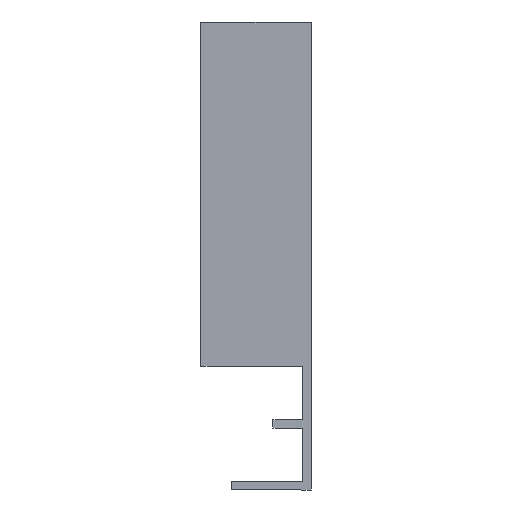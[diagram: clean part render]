
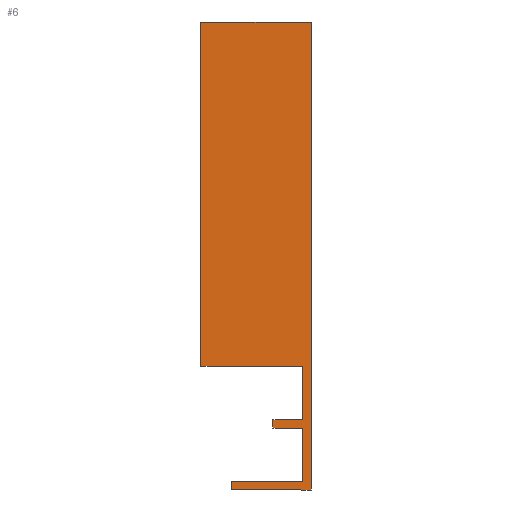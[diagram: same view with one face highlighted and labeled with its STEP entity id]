
A CAD part, left-side view. The second image highlights one B-rep face of the part: STEP entity #6.
In plain terms, the highlighted planar face has unit normal (-1, 0, 0).
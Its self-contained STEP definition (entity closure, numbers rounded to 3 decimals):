
#6 = ADVANCED_FACE ( 'NONE', ( #350 ), #48, .T. ) ;
#21 = VERTEX_POINT ( 'NONE', #185 ) ;
#23 = VERTEX_POINT ( 'NONE', #189 ) ;
#25 = VERTEX_POINT ( 'NONE', #190 ) ;
#27 = VERTEX_POINT ( 'NONE', #192 ) ;
#29 = VERTEX_POINT ( 'NONE', #188 ) ;
#31 = VERTEX_POINT ( 'NONE', #195 ) ;
#33 = VERTEX_POINT ( 'NONE', #197 ) ;
#34 = VERTEX_POINT ( 'NONE', #198 ) ;
#38 = VERTEX_POINT ( 'NONE', #202 ) ;
#40 = VERTEX_POINT ( 'NONE', #204 ) ;
#44 = VERTEX_POINT ( 'NONE', #208 ) ;
#48 = PLANE ( 'NONE',  #97 ) ;
#54 = VERTEX_POINT ( 'NONE', #220 ) ;
#68 = EDGE_CURVE ( 'NONE', #38, #40, #471, .T. ) ;
#70 = EDGE_CURVE ( 'NONE', #40, #34, #469, .T. ) ;
#73 = EDGE_CURVE ( 'NONE', #33, #31, #473, .T. ) ;
#76 = EDGE_CURVE ( 'NONE', #34, #44, #338, .T. ) ;
#77 = EDGE_CURVE ( 'NONE', #31, #29, #352, .T. ) ;
#80 = EDGE_CURVE ( 'NONE', #27, #25, #342, .T. ) ;
#90 = EDGE_CURVE ( 'NONE', #44, #33, #493, .T. ) ;
#91 = EDGE_CURVE ( 'NONE', #23, #21, #501, .T. ) ;
#94 = EDGE_CURVE ( 'NONE', #25, #23, #500, .T. ) ;
#96 = EDGE_CURVE ( 'NONE', #21, #54, #508, .T. ) ;
#97 = AXIS2_PLACEMENT_3D ( 'NONE', #137, #143, #144 ) ;
#127 = EDGE_CURVE ( 'NONE', #29, #27, #533, .T. ) ;
#128 = EDGE_CURVE ( 'NONE', #54, #38, #535, .T. ) ;
#137 = CARTESIAN_POINT ( 'NONE',  ( -388.5, 6., -16.7 ) ) ;
#143 = DIRECTION ( 'NONE',  ( -1., 0., 0. ) ) ;
#144 = DIRECTION ( 'NONE',  ( 0., -1., 0. ) ) ;
#185 = CARTESIAN_POINT ( 'NONE',  ( -388.5, 0., -8.95 ) ) ;
#188 = CARTESIAN_POINT ( 'NONE',  ( -388.5, 10.4, 0. ) ) ;
#189 = CARTESIAN_POINT ( 'NONE',  ( -388.5, 0., -7.75 ) ) ;
#190 = CARTESIAN_POINT ( 'NONE',  ( -388.5, -4.3, -7.75 ) ) ;
#192 = CARTESIAN_POINT ( 'NONE',  ( -388.5, -4.3, 0. ) ) ;
#195 = CARTESIAN_POINT ( 'NONE',  ( -388.5, 10.4, 49.7 ) ) ;
#197 = CARTESIAN_POINT ( 'NONE',  ( -388.5, -5.5, 49.7 ) ) ;
#198 = CARTESIAN_POINT ( 'NONE',  ( -388.5, 6., -17.9 ) ) ;
#202 = CARTESIAN_POINT ( 'NONE',  ( -388.5, -4.3, -16.7 ) ) ;
#204 = CARTESIAN_POINT ( 'NONE',  ( -388.5, 6., -16.7 ) ) ;
#208 = CARTESIAN_POINT ( 'NONE',  ( -388.5, -5.5, -17.9 ) ) ;
#217 = CARTESIAN_POINT ( 'NONE',  ( -388.5, -4.3, -16.7 ) ) ;
#220 = CARTESIAN_POINT ( 'NONE',  ( -388.5, -4.3, -8.95 ) ) ;
#221 = CARTESIAN_POINT ( 'NONE',  ( -388.5, 6., -16.7 ) ) ;
#222 = DIRECTION ( 'NONE',  ( 0., 1., 0. ) ) ;
#227 = DIRECTION ( 'NONE',  ( 0., 0., -1. ) ) ;
#230 = CARTESIAN_POINT ( 'NONE',  ( -388.5, -5.5, 49.7 ) ) ;
#232 = DIRECTION ( 'NONE',  ( 0., 1., 0. ) ) ;
#239 = CARTESIAN_POINT ( 'NONE',  ( -388.5, 6., -17.9 ) ) ;
#240 = DIRECTION ( 'NONE',  ( 0., -1., 0. ) ) ;
#241 = CARTESIAN_POINT ( 'NONE',  ( -388.5, 10.4, 49.7 ) ) ;
#242 = DIRECTION ( 'NONE',  ( 0., 0., -1. ) ) ;
#245 = CARTESIAN_POINT ( 'NONE',  ( -388.5, -4.3, 0. ) ) ;
#248 = DIRECTION ( 'NONE',  ( 0., 0., -1. ) ) ;
#265 = CARTESIAN_POINT ( 'NONE',  ( -388.5, -5.5, -17.9 ) ) ;
#267 = DIRECTION ( 'NONE',  ( 0., 0., 1. ) ) ;
#268 = CARTESIAN_POINT ( 'NONE',  ( -388.5, 0., -7.75 ) ) ;
#269 = DIRECTION ( 'NONE',  ( 0., 0., -1. ) ) ;
#277 = CARTESIAN_POINT ( 'NONE',  ( -388.5, -4.3, -7.75 ) ) ;
#278 = DIRECTION ( 'NONE',  ( 0., 1., 0. ) ) ;
#279 = CARTESIAN_POINT ( 'NONE',  ( -388.5, 0., -8.95 ) ) ;
#280 = DIRECTION ( 'NONE',  ( 0., -1., 0. ) ) ;
#305 = CARTESIAN_POINT ( 'NONE',  ( -388.5, 10.4, 0. ) ) ;
#306 = DIRECTION ( 'NONE',  ( 0., -1., 0. ) ) ;
#307 = CARTESIAN_POINT ( 'NONE',  ( -388.5, -4.3, -8.95 ) ) ;
#308 = DIRECTION ( 'NONE',  ( 0., 0., -1. ) ) ;
#338 = LINE ( 'NONE', #239, #463 ) ;
#342 = LINE ( 'NONE', #245, #480 ) ;
#344 = VECTOR ( 'NONE', #242, 1000. ) ;
#350 = FACE_OUTER_BOUND ( 'NONE', #436, .T. ) ;
#352 = LINE ( 'NONE', #241, #344 ) ;
#365 = ORIENTED_EDGE ( 'NONE', *, *, #68, .T. ) ;
#366 = ORIENTED_EDGE ( 'NONE', *, *, #70, .T. ) ;
#367 = ORIENTED_EDGE ( 'NONE', *, *, #76, .T. ) ;
#381 = ORIENTED_EDGE ( 'NONE', *, *, #90, .T. ) ;
#402 = ORIENTED_EDGE ( 'NONE', *, *, #73, .T. ) ;
#436 = EDGE_LOOP ( 'NONE', ( #365, #366, #367, #381, #402, #438, #439, #440, #441, #442, #443, #444 ) ) ;
#438 = ORIENTED_EDGE ( 'NONE', *, *, #77, .T. ) ;
#439 = ORIENTED_EDGE ( 'NONE', *, *, #127, .T. ) ;
#440 = ORIENTED_EDGE ( 'NONE', *, *, #80, .T. ) ;
#441 = ORIENTED_EDGE ( 'NONE', *, *, #94, .T. ) ;
#442 = ORIENTED_EDGE ( 'NONE', *, *, #91, .T. ) ;
#443 = ORIENTED_EDGE ( 'NONE', *, *, #96, .T. ) ;
#444 = ORIENTED_EDGE ( 'NONE', *, *, #128, .T. ) ;
#463 = VECTOR ( 'NONE', #240, 1000. ) ;
#465 = VECTOR ( 'NONE', #232, 1000. ) ;
#469 = LINE ( 'NONE', #221, #475 ) ;
#471 = LINE ( 'NONE', #217, #474 ) ;
#473 = LINE ( 'NONE', #230, #465 ) ;
#474 = VECTOR ( 'NONE', #222, 1000. ) ;
#475 = VECTOR ( 'NONE', #227, 1000. ) ;
#480 = VECTOR ( 'NONE', #248, 1000. ) ;
#493 = LINE ( 'NONE', #265, #499 ) ;
#498 = VECTOR ( 'NONE', #278, 1000. ) ;
#499 = VECTOR ( 'NONE', #267, 1000. ) ;
#500 = LINE ( 'NONE', #277, #498 ) ;
#501 = LINE ( 'NONE', #268, #502 ) ;
#502 = VECTOR ( 'NONE', #269, 1000. ) ;
#508 = LINE ( 'NONE', #279, #509 ) ;
#509 = VECTOR ( 'NONE', #280, 1000. ) ;
#533 = LINE ( 'NONE', #305, #534 ) ;
#534 = VECTOR ( 'NONE', #306, 1000. ) ;
#535 = LINE ( 'NONE', #307, #536 ) ;
#536 = VECTOR ( 'NONE', #308, 1000. ) ;
